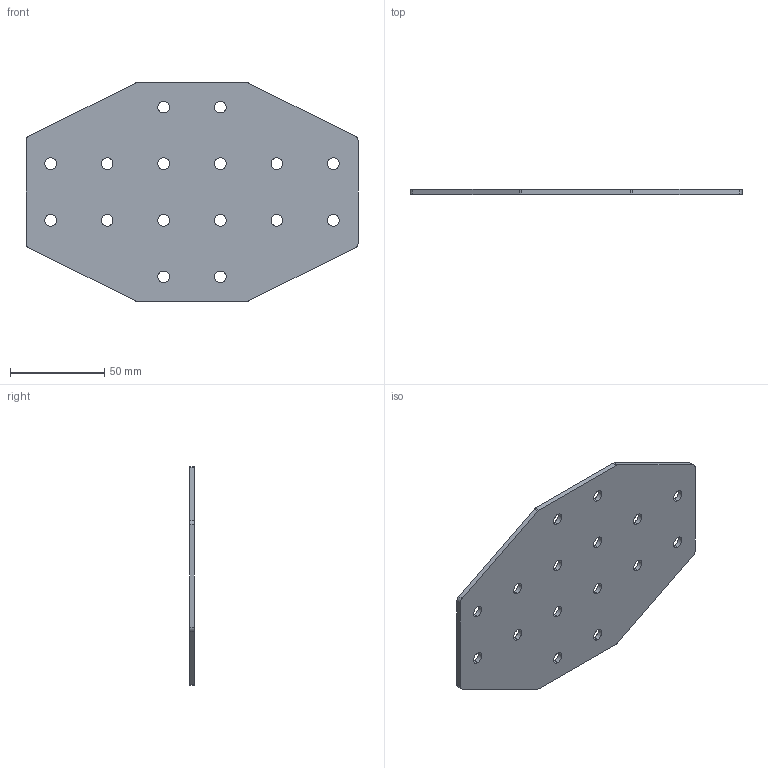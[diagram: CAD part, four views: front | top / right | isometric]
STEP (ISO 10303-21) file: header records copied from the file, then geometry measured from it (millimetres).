
FILE_DESCRIPTION (( 'STEP AP203' ), '1' );
FILE_NAME ('ﾕ-16-ﾓ-30.STEP', '2016-07-23T10:04:25', ( '' ), ( '' ), 'SwSTEP 2.0', 'SolidWorks 2014', '' );
FILE_SCHEMA (( 'CONFIG_CONTROL_DESIGN' ));
Length unit declared in the file: millimetre
Products named in the file (1): ﾕ-16-ﾓ-30
Bounding box: 176 x 2.5 x 116 mm (x, y, z)
Surface area: 35036.8 mm2 (no closed solid volume)
Topology: 0 solids, 1 shells, 50 faces, 144 edges, 96 vertices
Faces by surface type: cylinder 40, plane 10
Entity records: 1829 total; most frequent: DIRECTION 326, CARTESIAN_POINT 291, ORIENTED_EDGE 288, EDGE_CURVE 144, AXIS2_PLACEMENT_3D 131, VERTEX_POINT 96, EDGE_LOOP 82, CIRCLE 80
